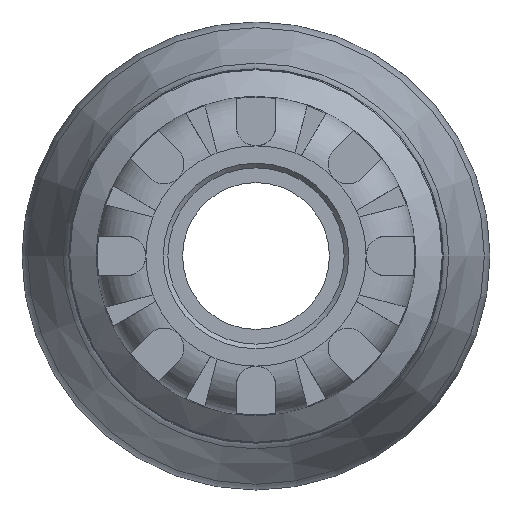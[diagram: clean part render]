
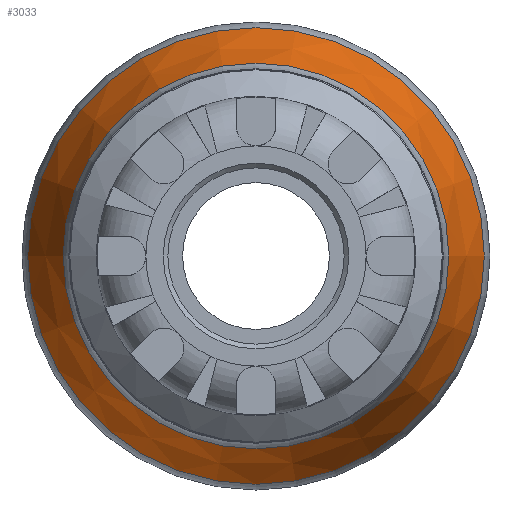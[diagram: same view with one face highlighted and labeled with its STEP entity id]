
A CAD part, left-side view. The second image highlights one B-rep face of the part: STEP entity #3033.
In plain terms, the highlighted conical face has half-angle 20 degrees and reference radius 38.25 mm.
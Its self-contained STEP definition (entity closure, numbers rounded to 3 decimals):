
#331=FACE_OUTER_BOUND('',#508,.T.);
#508=EDGE_LOOP('',(#2147,#2148,#2149,#2150,#2151,#2152,#2153,#2154));
#674=LINE('',#5030,#831);
#831=VECTOR('',#3859,38.25);
#1063=CIRCLE('',#3324,41.475);
#1064=CIRCLE('',#3325,41.475);
#1065=CIRCLE('',#3326,41.475);
#1067=CIRCLE('',#3329,35.025);
#1068=CIRCLE('',#3330,35.025);
#1069=CIRCLE('',#3331,35.025);
#1273=VERTEX_POINT('',#5020);
#1274=VERTEX_POINT('',#5022);
#1275=VERTEX_POINT('',#5024);
#1276=VERTEX_POINT('',#5029);
#1277=VERTEX_POINT('',#5031);
#1278=VERTEX_POINT('',#5033);
#1599=EDGE_CURVE('',#1273,#1274,#1063,.T.);
#1600=EDGE_CURVE('',#1274,#1275,#1064,.T.);
#1601=EDGE_CURVE('',#1275,#1273,#1065,.T.);
#1603=EDGE_CURVE('',#1274,#1276,#674,.T.);
#1604=EDGE_CURVE('',#1277,#1276,#1067,.T.);
#1605=EDGE_CURVE('',#1278,#1277,#1068,.T.);
#1606=EDGE_CURVE('',#1276,#1278,#1069,.T.);
#2147=ORIENTED_EDGE('',*,*,#1601,.F.);
#2148=ORIENTED_EDGE('',*,*,#1600,.F.);
#2149=ORIENTED_EDGE('',*,*,#1603,.T.);
#2150=ORIENTED_EDGE('',*,*,#1604,.F.);
#2151=ORIENTED_EDGE('',*,*,#1605,.F.);
#2152=ORIENTED_EDGE('',*,*,#1606,.F.);
#2153=ORIENTED_EDGE('',*,*,#1603,.F.);
#2154=ORIENTED_EDGE('',*,*,#1599,.F.);
#2858=CONICAL_SURFACE('',#3328,38.25,0.349);
#3033=ADVANCED_FACE('',(#331),#2858,.T.);
#3324=AXIS2_PLACEMENT_3D('',#5023,#3849,#3850);
#3325=AXIS2_PLACEMENT_3D('',#5025,#3851,#3852);
#3326=AXIS2_PLACEMENT_3D('',#5026,#3853,#3854);
#3328=AXIS2_PLACEMENT_3D('',#5028,#3857,#3858);
#3329=AXIS2_PLACEMENT_3D('',#5032,#3860,#3861);
#3330=AXIS2_PLACEMENT_3D('',#5034,#3862,#3863);
#3331=AXIS2_PLACEMENT_3D('',#5035,#3864,#3865);
#3849=DIRECTION('center_axis',(1.,0.,0.));
#3850=DIRECTION('ref_axis',(0.,-1.,0.));
#3851=DIRECTION('center_axis',(1.,0.,0.));
#3852=DIRECTION('ref_axis',(0.,-1.,0.));
#3853=DIRECTION('center_axis',(1.,0.,0.));
#3854=DIRECTION('ref_axis',(0.,-1.,0.));
#3857=DIRECTION('center_axis',(1.,0.,0.));
#3858=DIRECTION('ref_axis',(0.,1.,0.));
#3859=DIRECTION('',(-0.94,0.342,0.));
#3860=DIRECTION('center_axis',(-1.,0.,0.));
#3861=DIRECTION('ref_axis',(0.,-1.,0.));
#3862=DIRECTION('center_axis',(-1.,0.,0.));
#3863=DIRECTION('ref_axis',(0.,-1.,0.));
#3864=DIRECTION('center_axis',(-1.,0.,0.));
#3865=DIRECTION('ref_axis',(0.,-1.,0.));
#5020=CARTESIAN_POINT('',(41.323,0.,41.475));
#5022=CARTESIAN_POINT('',(41.323,-41.475,0.));
#5023=CARTESIAN_POINT('Origin',(41.323,0.,0.));
#5024=CARTESIAN_POINT('',(41.323,41.475,0.));
#5025=CARTESIAN_POINT('Origin',(41.323,0.,0.));
#5026=CARTESIAN_POINT('Origin',(41.323,0.,0.));
#5028=CARTESIAN_POINT('Origin',(32.463,0.,0.));
#5029=CARTESIAN_POINT('',(23.603,-35.025,0.));
#5030=CARTESIAN_POINT('',(32.463,-38.25,0.));
#5031=CARTESIAN_POINT('',(23.603,35.025,0.));
#5032=CARTESIAN_POINT('Origin',(23.603,0.,0.));
#5033=CARTESIAN_POINT('',(23.603,0.,35.025));
#5034=CARTESIAN_POINT('Origin',(23.603,0.,0.));
#5035=CARTESIAN_POINT('Origin',(23.603,0.,0.));
